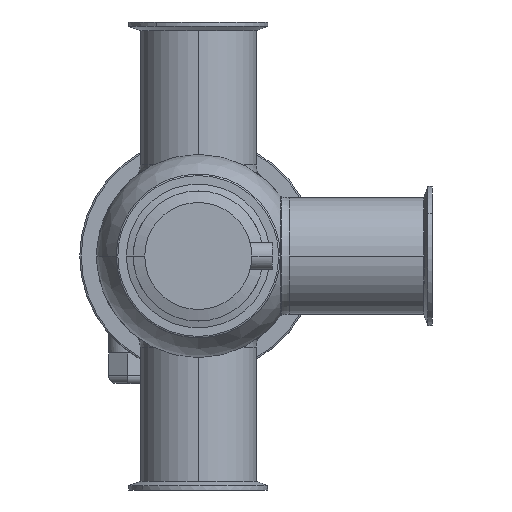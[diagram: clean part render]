
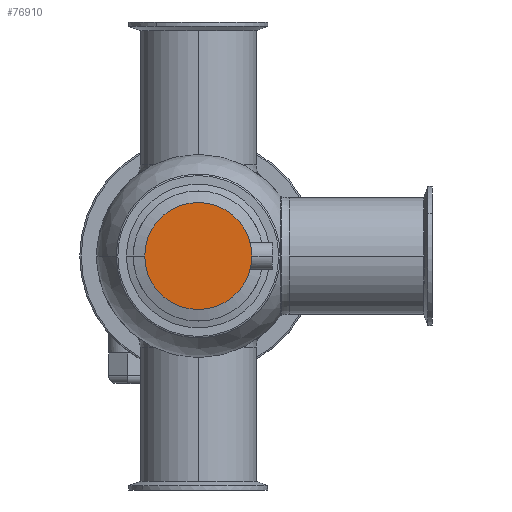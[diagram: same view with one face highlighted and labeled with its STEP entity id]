
A CAD part, front view. The second image highlights one B-rep face of the part: STEP entity #76910.
In plain terms, the highlighted planar face has unit normal (0, -1, 0).
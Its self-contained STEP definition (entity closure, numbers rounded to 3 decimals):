
#76580=CARTESIAN_POINT('',(35.,-92.85,0.))
;
#76590=VERTEX_POINT('',#76580);
#76620=CARTESIAN_POINT('',(0.,-92.85,0.));
#76630=DIRECTION('',(0.,-1.,0.));
#76640=DIRECTION('',(-1.,0.,0.));
#76650=AXIS2_PLACEMENT_3D('',#76620,#76630,#76640);
#76660=CIRCLE('',#76650,35.);
#76670=CARTESIAN_POINT('',(-35.,-92.85,0.));
#76680=VERTEX_POINT('',#76670);
#76690=EDGE_CURVE('',#76590,#76680,#76660,.T.);
#76810=CARTESIAN_POINT('',(0.,-92.85,0.));
#76820=DIRECTION('',(0.,-1.,0.));
#76830=DIRECTION('',(-1.,0.,0.));
#76840=AXIS2_PLACEMENT_3D('',#76810,#76820,#76830);
#76850=PLANE('',#76840);
#76860=ORIENTED_EDGE('',*,*,#76690,.T.);
#76870=EDGE_CURVE('',#76680,#76590,#76660,.T.);
#76880=ORIENTED_EDGE('',*,*,#76870,.T.);
#76890=EDGE_LOOP('',(#76880,#76860));
#76900=FACE_OUTER_BOUND('',#76890,.T.);
#76910=ADVANCED_FACE('',(#76900),#76850,.T.);
